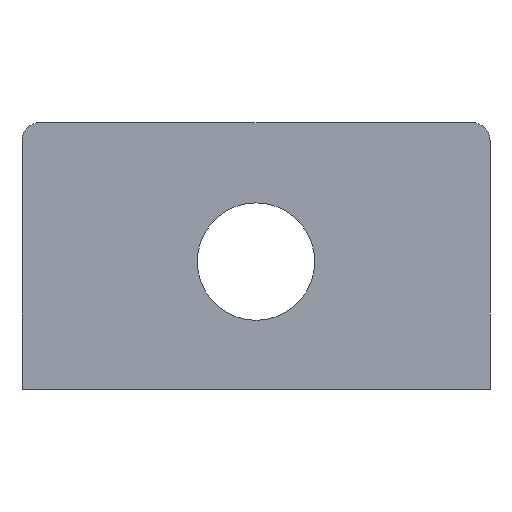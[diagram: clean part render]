
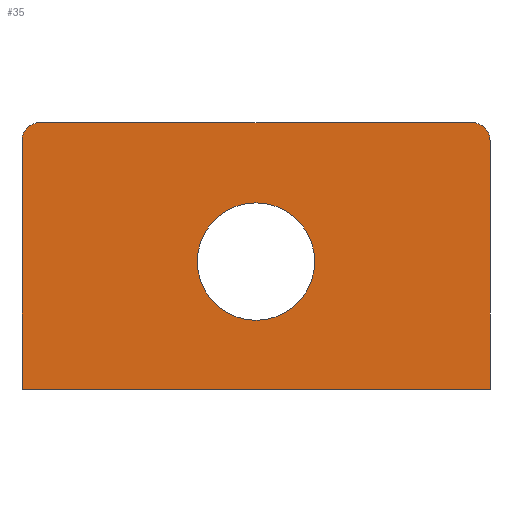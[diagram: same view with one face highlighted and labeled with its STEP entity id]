
A CAD part, front view. The second image highlights one B-rep face of the part: STEP entity #35.
In plain terms, the highlighted planar face has unit normal (0, -1, 0).
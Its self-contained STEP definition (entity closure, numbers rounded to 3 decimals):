
#35 = ADVANCED_FACE('',(#36,#88),#108,.T.);
#36 = FACE_BOUND('',#37,.T.);
#37 = EDGE_LOOP('',(#38,#48,#57,#65,#74,#82));
#38 = ORIENTED_EDGE('',*,*,#39,.F.);
#39 = EDGE_CURVE('',#40,#42,#44,.T.);
#40 = VERTEX_POINT('',#41);
#41 = CARTESIAN_POINT('',(398.5,0.,
    424.));
#42 = VERTEX_POINT('',#43);
#43 = CARTESIAN_POINT('',(398.5,0.,
    0.));
#44 = LINE('',#45,#46);
#45 = CARTESIAN_POINT('',(398.5,0.,
    0.));
#46 = VECTOR('',#47,1.);
#47 = DIRECTION('',(0.,0.,-1.));
#48 = ORIENTED_EDGE('',*,*,#49,.T.);
#49 = EDGE_CURVE('',#40,#50,#52,.T.);
#50 = VERTEX_POINT('',#51);
#51 = CARTESIAN_POINT('',(368.5,0.,
    454.));
#52 = CIRCLE('',#53,30.);
#53 = AXIS2_PLACEMENT_3D('',#54,#55,#56);
#54 = CARTESIAN_POINT('',(368.5,0.,
    424.));
#55 = DIRECTION('',(0.,-1.,0.));
#56 = DIRECTION('',(1.,0.,0.));
#57 = ORIENTED_EDGE('',*,*,#58,.T.);
#58 = EDGE_CURVE('',#50,#59,#61,.T.);
#59 = VERTEX_POINT('',#60);
#60 = CARTESIAN_POINT('',(-368.5,0.,
    454.));
#61 = LINE('',#62,#63);
#62 = CARTESIAN_POINT('',(368.5,0.,
    454.));
#63 = VECTOR('',#64,1.);
#64 = DIRECTION('',(-1.,0.,0.));
#65 = ORIENTED_EDGE('',*,*,#66,.T.);
#66 = EDGE_CURVE('',#59,#67,#69,.T.);
#67 = VERTEX_POINT('',#68);
#68 = CARTESIAN_POINT('',(-398.5,0.,
    424.));
#69 = CIRCLE('',#70,30.);
#70 = AXIS2_PLACEMENT_3D('',#71,#72,#73);
#71 = CARTESIAN_POINT('',(-368.5,0.,
    424.));
#72 = DIRECTION('',(0.,-1.,0.));
#73 = DIRECTION('',(0.,0.,1.));
#74 = ORIENTED_EDGE('',*,*,#75,.T.);
#75 = EDGE_CURVE('',#67,#76,#78,.T.);
#76 = VERTEX_POINT('',#77);
#77 = CARTESIAN_POINT('',(-398.5,0.,
    0.));
#78 = LINE('',#79,#80);
#79 = CARTESIAN_POINT('',(-398.5,0.,
    424.));
#80 = VECTOR('',#81,1.);
#81 = DIRECTION('',(0.,0.,-1.));
#82 = ORIENTED_EDGE('',*,*,#83,.T.);
#83 = EDGE_CURVE('',#76,#42,#84,.T.);
#84 = LINE('',#85,#86);
#85 = CARTESIAN_POINT('',(398.5,0.,
    0.));
#86 = VECTOR('',#87,1.);
#87 = DIRECTION('',(1.,0.,0.));
#88 = FACE_BOUND('',#89,.T.);
#89 = EDGE_LOOP('',(#90,#101));
#90 = ORIENTED_EDGE('',*,*,#91,.T.);
#91 = EDGE_CURVE('',#92,#94,#96,.T.);
#92 = VERTEX_POINT('',#93);
#93 = CARTESIAN_POINT('',(-100.,0.,
    217.5));
#94 = VERTEX_POINT('',#95);
#95 = CARTESIAN_POINT('',(100.,0.,
    217.5));
#96 = CIRCLE('',#97,100.);
#97 = AXIS2_PLACEMENT_3D('',#98,#99,#100);
#98 = CARTESIAN_POINT('',(0.,0.,
    217.5));
#99 = DIRECTION('',(0.,1.,0.));
#100 = DIRECTION('',(1.,0.,-0.));
#101 = ORIENTED_EDGE('',*,*,#102,.T.);
#102 = EDGE_CURVE('',#94,#92,#103,.T.);
#103 = CIRCLE('',#104,100.);
#104 = AXIS2_PLACEMENT_3D('',#105,#106,#107);
#105 = CARTESIAN_POINT('',(0.,0.,
    217.5));
#106 = DIRECTION('',(0.,1.,0.));
#107 = DIRECTION('',(1.,0.,-0.));
#108 = PLANE('',#109);
#109 = AXIS2_PLACEMENT_3D('',#110,#111,#112);
#110 = CARTESIAN_POINT('',(-373.5,0.,
    0.));
#111 = DIRECTION('',(0.,-1.,0.));
#112 = DIRECTION('',(0.,0.,-1.));
